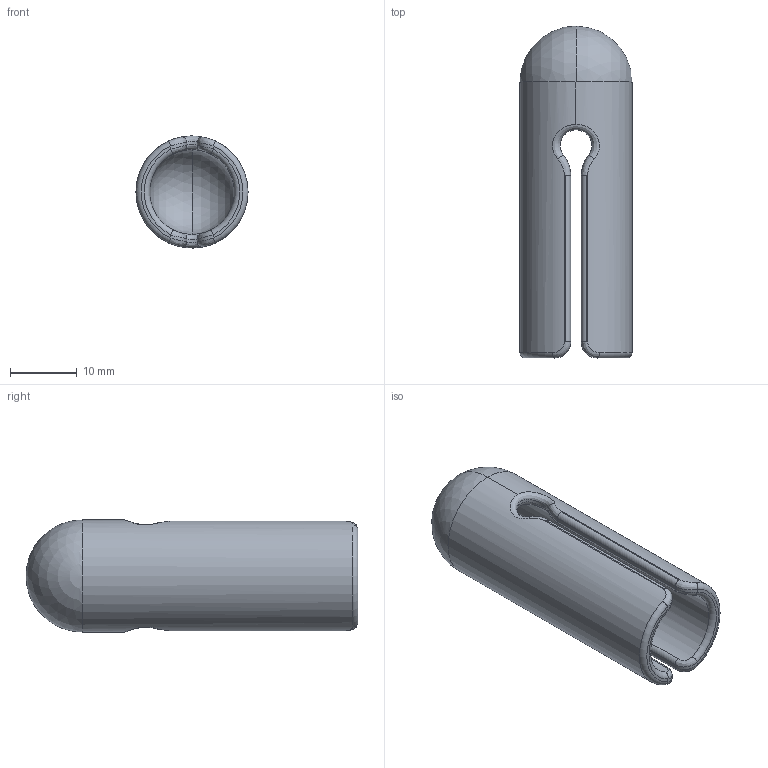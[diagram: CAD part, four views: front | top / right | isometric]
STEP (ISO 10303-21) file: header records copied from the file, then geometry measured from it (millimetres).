
FILE_DESCRIPTION (( 'STEP AP203' ), '1' );
FILE_NAME ('Finger splint Size 8.STEP', '2018-02-19T16:27:23', ( '' ), ( '' ), 'SwSTEP 2.0', 'SolidWorks 2015', '' );
FILE_SCHEMA (( 'CONFIG_CONTROL_DESIGN' ));
Length unit declared in the file: inch
Products named in the file (1): Finger splint Size 8
Bounding box: 16.76 x 49.66 x 16.76 mm (x, y, z)
Volume: 4248.7 mm3; surface area: 4486.3 mm2
Topology: 1 solids, 1 shells, 62 faces, 154 edges, 90 vertices
Faces by surface type: cylinder 28, bspline 20, plane 6, sphere 4, torus 4
Entity records: 3401 total; most frequent: CARTESIAN_POINT 2051, ORIENTED_EDGE 292, DIRECTION 232, EDGE_CURVE 146, AXIS2_PLACEMENT_3D 95, VERTEX_POINT 86, FACE_OUTER_BOUND 62, EDGE_LOOP 62
